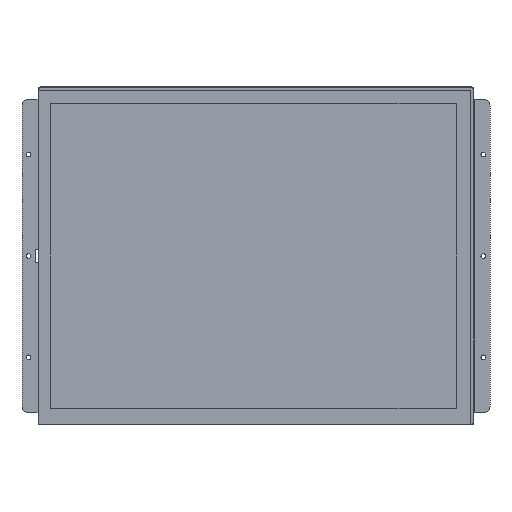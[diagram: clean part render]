
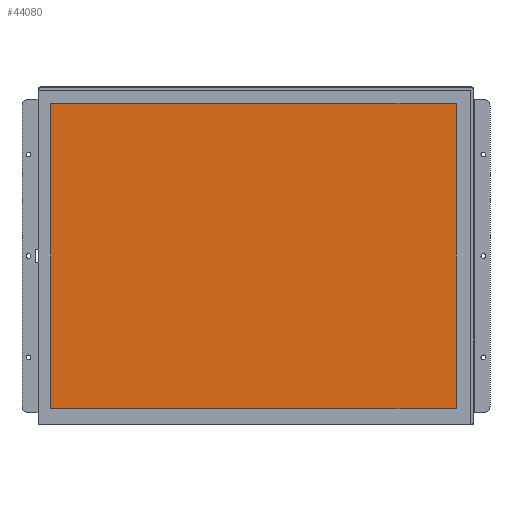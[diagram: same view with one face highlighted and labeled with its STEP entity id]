
A CAD part, front view. The second image highlights one B-rep face of the part: STEP entity #44080.
In plain terms, the highlighted planar face has unit normal (0, -1, 0).
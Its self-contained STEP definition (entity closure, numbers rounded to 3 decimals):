
#17411=DIRECTION('',(-1.,0.,0.));
#17412=VECTOR('',#17411,304.1);
#17413=CARTESIAN_POINT('',(150.05,-14.3,114.05));
#17414=LINE('',#17413,#17412);
#17415=DIRECTION('',(0.,0.,1.));
#17416=VECTOR('',#17415,228.1);
#17417=CARTESIAN_POINT('',(150.05,-14.3,-114.05));
#17418=LINE('',#17417,#17416);
#17419=DIRECTION('',(1.,0.,0.));
#17420=VECTOR('',#17419,304.1);
#17421=CARTESIAN_POINT('',(-154.05,-14.3,-114.05));
#17422=LINE('',#17421,#17420);
#17423=DIRECTION('',(0.,0.,-1.));
#17424=VECTOR('',#17423,228.1);
#17425=CARTESIAN_POINT('',(-154.05,-14.3,114.05));
#17426=LINE('',#17425,#17424);
#32365=CARTESIAN_POINT('',(150.05,-14.3,114.05));
#32366=CARTESIAN_POINT('',(-154.05,-14.3,114.05));
#32367=VERTEX_POINT('',#32365);
#32368=VERTEX_POINT('',#32366);
#32369=CARTESIAN_POINT('',(-154.05,-14.3,-114.05));
#32370=VERTEX_POINT('',#32369);
#32371=CARTESIAN_POINT('',(150.05,-14.3,-114.05));
#32372=VERTEX_POINT('',#32371);
#44069=CARTESIAN_POINT('',(-2.,-14.3,0.));
#44070=DIRECTION('',(0.,-1.,0.));
#44071=DIRECTION('',(1.,0.,0.));
#44072=AXIS2_PLACEMENT_3D('',#44069,#44070,#44071);
#44073=PLANE('',#44072);
#44074=ORIENTED_EDGE('',*,*,#44021,.F.);
#44075=ORIENTED_EDGE('',*,*,#44036,.F.);
#44076=ORIENTED_EDGE('',*,*,#44050,.F.);
#44077=ORIENTED_EDGE('',*,*,#44063,.F.);
#44078=EDGE_LOOP('',(#44074,#44075,#44076,#44077));
#44079=FACE_OUTER_BOUND('',#44078,.F.);
#44021=EDGE_CURVE('',#32367,#32368,#17414,.T.);
#44036=EDGE_CURVE('',#32372,#32367,#17418,.T.);
#44050=EDGE_CURVE('',#32370,#32372,#17422,.T.);
#44063=EDGE_CURVE('',#32368,#32370,#17426,.T.);
#44080=ADVANCED_FACE('',(#44079),#44073,.T.);
